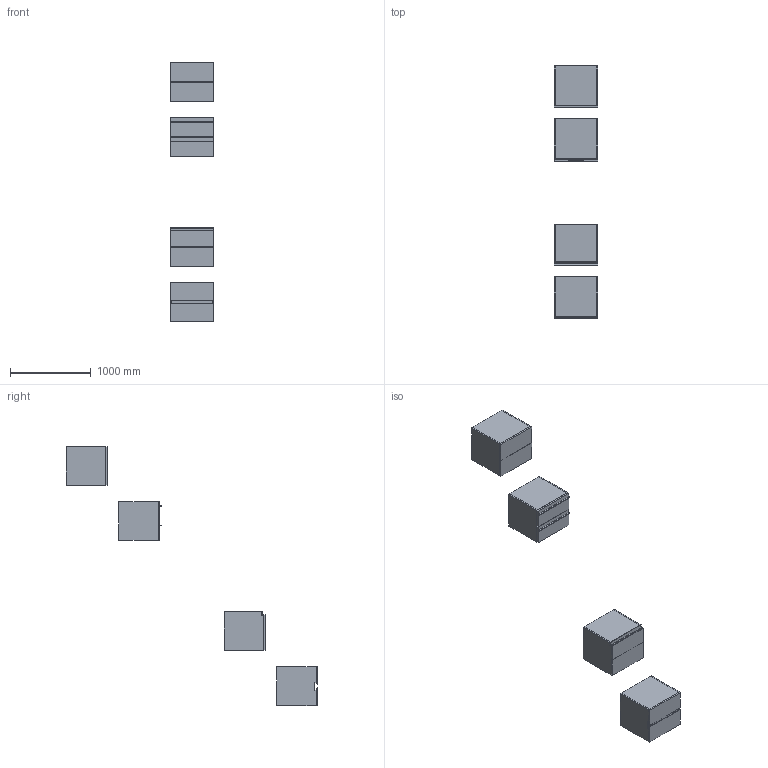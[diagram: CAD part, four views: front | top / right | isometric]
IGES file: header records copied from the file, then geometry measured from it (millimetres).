
Start section: Data from Parasolid IGES Translator 19.0.9, Copyright(c) 2006 Siemens PL M Software. All Rights Reserved.
Global section: file name: noorth-SI-H 48 D 51 W 54_8581.igs; native system: By Siemens PLM Incorporated; preprocessor: XPlus GENERIC/IGES 19.0.9; author: Noname; organization: Noname; date: 20200601.112721; units: metre
Bounding box: 540 x 3107.1 x 3200.01 mm (x, y, z)
Volume: 82703370.5 mm3; surface area: 12488203.9 mm2
Topology: 33 solids, 33 shells, 318 faces, 700 edges, 428 vertices
Faces by surface type: plane 230, extrusion 36, bspline 32, cylinder 20
